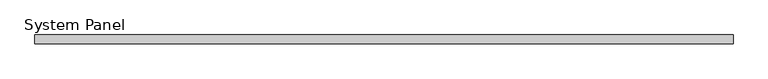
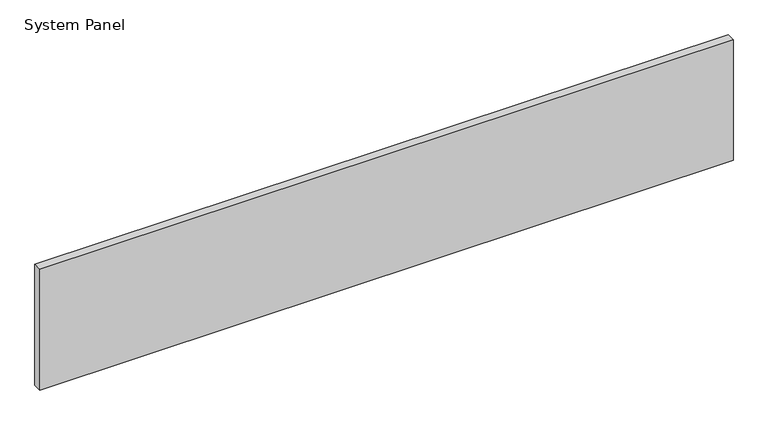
"""IFC4 building model written with IfcOpenShell, lengths in millimetres: plate geometry, System Panel : MetecnoPanel 75mm Horizontal - Plain Astro - PIR."""

from ifc_helpers import new_model, si_unit, origin, origin_with_axes, place, context, project, spatial, polyline, outline, extrude, source, transform, mapped, element, save


def system_panel_b5687b8b(model_context):
    return source(origin(), model_context, "Body", "SweptSolid", [
        extrude(outline(polyline([(2990.0, -75.0), (-2990.0, -75.0), (-2990.0, 0.0), (2990.0, 0.0), (2990.0, -75.0)])), origin_with_axes(), (0.0, 0.0, 1.0), 1100.0),
    ])


if __name__ == "__main__":
    model = new_model("IFC4")
    model_context = context("Model", 3, world=origin())
    ifc_project = project(units=[si_unit("LENGTHUNIT", "METRE", prefix="MILLI")], contexts=[model_context])
    site = spatial("IfcSite", under=ifc_project)
    building = spatial("IfcBuilding", under=site)
    placement = place(None, origin())
    system_panel_shape = system_panel_b5687b8b(model_context)
    element("IfcPlate", 1, ObjectType="System Panel : MetecnoPanel 75mm Horizontal - Plain Astro - PIR", at=placement, inside=building, context=model_context, shape_type="MappedRepresentation", body=[
        mapped(system_panel_shape, transform((0.0, 0.0, 0.0), x_axis=(1.0, 0.0, 0.0), y_axis=(0.0, 1.0, 0.0), z_axis=(0.0, 0.0, 1.0))),
    ])
    save(model, "model.ifc")
